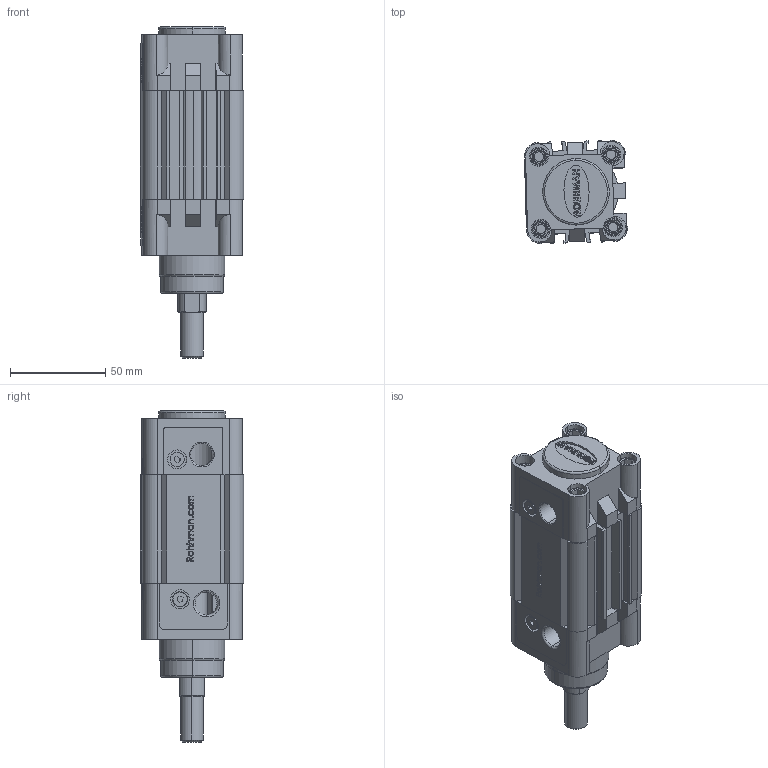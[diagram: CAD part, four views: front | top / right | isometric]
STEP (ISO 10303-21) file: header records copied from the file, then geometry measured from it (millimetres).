
FILE_DESCRIPTION (( 'STEP AP214' ), '1' );
FILE_NAME ('RIC_40_25_WEB.STEP', '2021-01-10T10:22:23', ( '' ), ( '' ), 'SwSTEP 2.0', 'SolidWorks 2021', '' );
FILE_SCHEMA (( 'AUTOMOTIVE_DESIGN' ));
Length unit declared in the file: millimetre
Products named in the file (8): 16_K_MIL_WEB; RIC_40_BORU_WEB_RIC 40-250; ric40onkapak; ric40arkakapak; m6kapakcivatasi; yastýklama civatasý; ric40bogazkecesi; RIC_40_25_WEB
Assembly tree (15 placements, depth 2):
  RIC_40_25_WEB
    ric40arkakapak
    ric40onkapak
    RIC_40_BORU_WEB_RIC 40-250
    ric40bogazkecesi
    yastýklama civatasý  x2
    m6kapakcivatasi  x8
    16_K_MIL_WEB
Bounding box: 54.22 x 54.22 x 174.5 mm (x, y, z)
Volume: 196919.6 mm3; surface area: 93266.7 mm2
Topology: 22 solids, 22 shells, 1035 faces, 2485 edges, 1585 vertices
Faces by surface type: plane 553, cylinder 227, cone 131, bspline 98, torus 26
Entity records: 31879 total; most frequent: CARTESIAN_POINT 10352, ORIENTED_EDGE 3982, DIRECTION 3656, EDGE_CURVE 1991, VERTEX_POINT 1289, LINE 1264, VECTOR 1264, AXIS2_PLACEMENT_3D 1196
